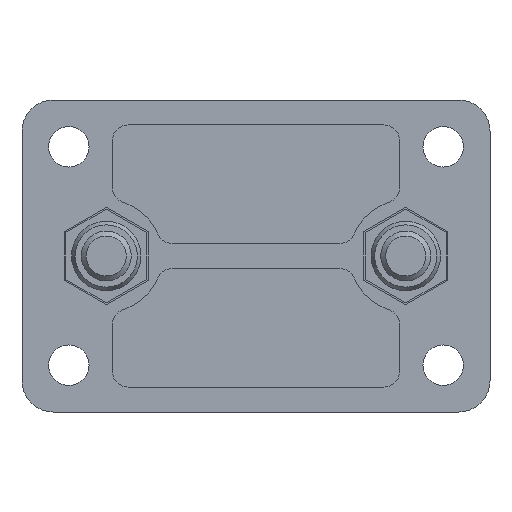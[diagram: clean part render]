
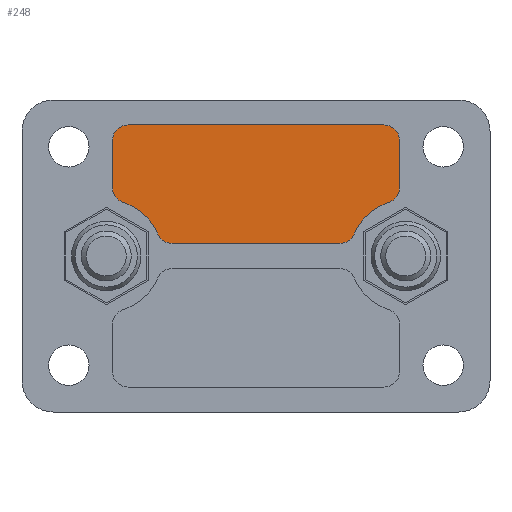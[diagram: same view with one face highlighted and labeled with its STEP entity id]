
A CAD part, front view. The second image highlights one B-rep face of the part: STEP entity #248.
In plain terms, the highlighted planar face has unit normal (0, -1, 0).
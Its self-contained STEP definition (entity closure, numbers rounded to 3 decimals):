
#248 = ADVANCED_FACE( '', ( #702 ), #703, .F. );
#702 = FACE_OUTER_BOUND( '', #1214, .T. );
#703 = PLANE( '', #1215 );
#1214 = EDGE_LOOP( '', ( #2733, #2734, #2735, #2736, #2737, #2738, #2739, #2740, #2741, #2742, #2743, #2744 ) );
#1215 = AXIS2_PLACEMENT_3D( '', #2745, #2746, #2747 );
#2733 = ORIENTED_EDGE( '', *, *, #3677, .F. );
#2734 = ORIENTED_EDGE( '', *, *, #3678, .F. );
#2735 = ORIENTED_EDGE( '', *, *, #3679, .T. );
#2736 = ORIENTED_EDGE( '', *, *, #3680, .F. );
#2737 = ORIENTED_EDGE( '', *, *, #3681, .F. );
#2738 = ORIENTED_EDGE( '', *, *, #3682, .F. );
#2739 = ORIENTED_EDGE( '', *, *, #3683, .T. );
#2740 = ORIENTED_EDGE( '', *, *, #3684, .F. );
#2741 = ORIENTED_EDGE( '', *, *, #3685, .F. );
#2742 = ORIENTED_EDGE( '', *, *, #3686, .F. );
#2743 = ORIENTED_EDGE( '', *, *, #3687, .F. );
#2744 = ORIENTED_EDGE( '', *, *, #3688, .F. );
#2745 = CARTESIAN_POINT( '', ( -20.5, -27., 18.5 ) );
#2746 = DIRECTION( '', ( 0., 1., 0. ) );
#2747 = DIRECTION( '', ( 0., 0., 1. ) );
#3677 = EDGE_CURVE( '', #4613, #4614, #4615, .T. );
#3678 = EDGE_CURVE( '', #4616, #4613, #4617, .T. );
#3679 = EDGE_CURVE( '', #4616, #4618, #4619, .T. );
#3680 = EDGE_CURVE( '', #4620, #4618, #4621, .T. );
#3681 = EDGE_CURVE( '', #4622, #4620, #4623, .T. );
#3682 = EDGE_CURVE( '', #4624, #4622, #4625, .T. );
#3683 = EDGE_CURVE( '', #4624, #4626, #4627, .T. );
#3684 = EDGE_CURVE( '', #4628, #4626, #4629, .T. );
#3685 = EDGE_CURVE( '', #4630, #4628, #4631, .T. );
#3686 = EDGE_CURVE( '', #4632, #4630, #4633, .T. );
#3687 = EDGE_CURVE( '', #4634, #4632, #4635, .T. );
#3688 = EDGE_CURVE( '', #4614, #4634, #4636, .T. );
#4613 = VERTEX_POINT( '', #5981 );
#4614 = VERTEX_POINT( '', #5982 );
#4615 = LINE( '', #5983, #5984 );
#4616 = VERTEX_POINT( '', #5985 );
#4617 = CIRCLE( '', #5986, 2.5 );
#4618 = VERTEX_POINT( '', #5987 );
#4619 = CIRCLE( '', #5988, 9. );
#4620 = VERTEX_POINT( '', #5989 );
#4621 = CIRCLE( '', #5990, 2.5 );
#4622 = VERTEX_POINT( '', #5991 );
#4623 = LINE( '', #5992, #5993 );
#4624 = VERTEX_POINT( '', #5994 );
#4625 = CIRCLE( '', #5995, 2.5 );
#4626 = VERTEX_POINT( '', #5996 );
#4627 = CIRCLE( '', #5997, 9. );
#4628 = VERTEX_POINT( '', #5998 );
#4629 = CIRCLE( '', #5999, 2.5 );
#4630 = VERTEX_POINT( '', #6000 );
#4631 = LINE( '', #6001, #6002 );
#4632 = VERTEX_POINT( '', #6003 );
#4633 = CIRCLE( '', #6004, 2.5 );
#4634 = VERTEX_POINT( '', #6005 );
#4635 = LINE( '', #6006, #6007 );
#4636 = CIRCLE( '', #6008, 2.5 );
#5981 = CARTESIAN_POINT( '', ( -23., -27., 10.954 ) );
#5982 = CARTESIAN_POINT( '', ( -23., -27., 18.5 ) );
#5983 = CARTESIAN_POINT( '', ( -23., -27., 10.954 ) );
#5984 = VECTOR( '', #7003, 1000. );
#5985 = CARTESIAN_POINT( '', ( -21.261, -27., 8.573 ) );
#5986 = AXIS2_PLACEMENT_3D( '', #7004, #7005, #7006 );
#5987 = CARTESIAN_POINT( '', ( -15.718, -27., 3.522 ) );
#5988 = AXIS2_PLACEMENT_3D( '', #7007, #7008, #7009 );
#5989 = CARTESIAN_POINT( '', ( -13.417, -27., 2. ) );
#5990 = AXIS2_PLACEMENT_3D( '', #7010, #7011, #7012 );
#5991 = CARTESIAN_POINT( '', ( 13.417, -27., 2. ) );
#5992 = CARTESIAN_POINT( '', ( 13.417, -27., 2. ) );
#5993 = VECTOR( '', #7013, 1000. );
#5994 = CARTESIAN_POINT( '', ( 15.718, -27., 3.522 ) );
#5995 = AXIS2_PLACEMENT_3D( '', #7014, #7015, #7016 );
#5996 = CARTESIAN_POINT( '', ( 21.261, -27., 8.573 ) );
#5997 = AXIS2_PLACEMENT_3D( '', #7017, #7018, #7019 );
#5998 = CARTESIAN_POINT( '', ( 23., -27., 10.954 ) );
#5999 = AXIS2_PLACEMENT_3D( '', #7020, #7021, #7022 );
#6000 = CARTESIAN_POINT( '', ( 23., -27., 18.5 ) );
#6001 = CARTESIAN_POINT( '', ( 23., -27., 18.5 ) );
#6002 = VECTOR( '', #7023, 1000. );
#6003 = CARTESIAN_POINT( '', ( 20.5, -27., 21. ) );
#6004 = AXIS2_PLACEMENT_3D( '', #7024, #7025, #7026 );
#6005 = CARTESIAN_POINT( '', ( -20.5, -27., 21. ) );
#6006 = CARTESIAN_POINT( '', ( -20.5, -27., 21. ) );
#6007 = VECTOR( '', #7027, 1000. );
#6008 = AXIS2_PLACEMENT_3D( '', #7028, #7029, #7030 );
#7003 = DIRECTION( '', ( 0., 0., 1. ) );
#7004 = CARTESIAN_POINT( '', ( -20.5, -27., 10.954 ) );
#7005 = DIRECTION( '', ( 0., 1., 0. ) );
#7006 = DIRECTION( '', ( 1., 0., 0. ) );
#7007 = CARTESIAN_POINT( '', ( -24., -27., 0. ) );
#7008 = DIRECTION( '', ( 0., 1., 0. ) );
#7009 = DIRECTION( '', ( 1., 0., 0. ) );
#7010 = CARTESIAN_POINT( '', ( -13.417, -27., 4.5 ) );
#7011 = DIRECTION( '', ( 0., 1., 0. ) );
#7012 = DIRECTION( '', ( 1., 0., 0. ) );
#7013 = DIRECTION( '', ( -1., 0., 0. ) );
#7014 = CARTESIAN_POINT( '', ( 13.417, -27., 4.5 ) );
#7015 = DIRECTION( '', ( 0., 1., 0. ) );
#7016 = DIRECTION( '', ( 1., 0., 0. ) );
#7017 = CARTESIAN_POINT( '', ( 24., -27., 0. ) );
#7018 = DIRECTION( '', ( 0., 1., 0. ) );
#7019 = DIRECTION( '', ( 1., 0., 0. ) );
#7020 = CARTESIAN_POINT( '', ( 20.5, -27., 10.954 ) );
#7021 = DIRECTION( '', ( 0., 1., 0. ) );
#7022 = DIRECTION( '', ( 1., 0., 0. ) );
#7023 = DIRECTION( '', ( 0., 0., -1. ) );
#7024 = CARTESIAN_POINT( '', ( 20.5, -27., 18.5 ) );
#7025 = DIRECTION( '', ( 0., 1., 0. ) );
#7026 = DIRECTION( '', ( 1., 0., 0. ) );
#7027 = DIRECTION( '', ( 1., 0., 0. ) );
#7028 = CARTESIAN_POINT( '', ( -20.5, -27., 18.5 ) );
#7029 = DIRECTION( '', ( 0., 1., 0. ) );
#7030 = DIRECTION( '', ( 1., 0., 0. ) );
